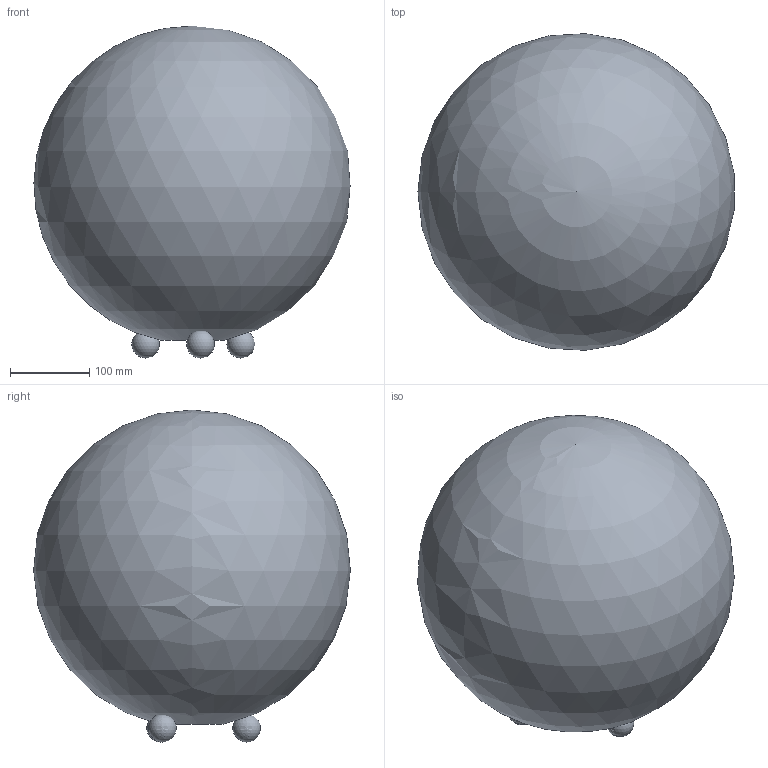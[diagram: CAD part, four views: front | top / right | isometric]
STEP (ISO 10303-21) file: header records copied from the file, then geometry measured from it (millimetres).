
FILE_DESCRIPTION(/* description */ (''),/* implementation_level */ '2;1');
FILE_NAME(/* name */ 'C:/Users/LukasGröber/GMS Cloud/Groeber Mannheim Lichtwerke - Dokumente/Marketing/Produkte/3D Daten/Kugel Sahara Tischleuchte/Kugel Sahara 40 Tischleuchte.step',/* time_stamp */ '2022-07-08T11:35:19+02:00',/* author */ (''),/* organization */ (''),/* preprocessor_version */ 'ST-DEVELOPER v19',/* originating_system */ 'Autodesk Translation Framework v11.7.0.108',/* authorisation */ '');
FILE_SCHEMA (('AUTOMOTIVE_DESIGN { 1 0 10303 214 3 1 1 }'));
Length unit declared in the file: millimetre
Products named in the file (2): Kugel Sahara 40 Tischleuchte; Kugel Sahara 400 Öffnung 80
Assembly tree (1 placements, depth 2):
  Kugel Sahara 40 Tischleuchte
    Kugel Sahara 400 Öffnung 80
Bounding box: 398.61 x 399.29 x 418.59 mm (x, y, z)
Volume: 2492917.8 mm3; surface area: 983161.2 mm2
Topology: 4 solids, 4 shells, 6 faces, 16 edges, 10 vertices
Faces by surface type: sphere 5, cylinder 1
Full cylindrical faces by diameter (mm): 80 x1
Entity records: 224 total; most frequent: DIRECTION 33, CARTESIAN_POINT 27, ORIENTED_EDGE 16, AXIS2_PLACEMENT_3D 16, VERTEX_POINT 10, EDGE_CURVE 8, CIRCLE 7, FACE_OUTER_BOUND 6
